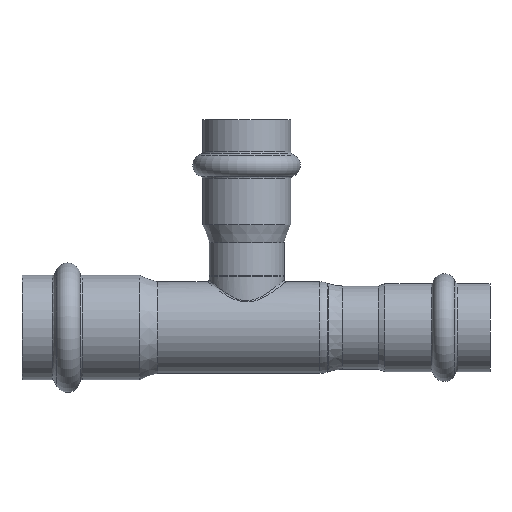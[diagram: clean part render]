
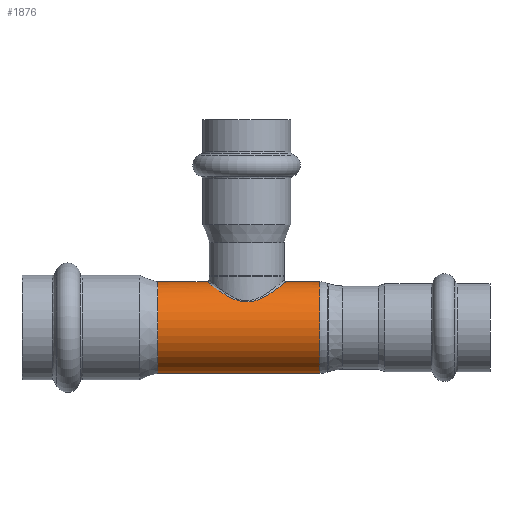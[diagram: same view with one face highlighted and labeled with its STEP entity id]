
A CAD part, front view. The second image highlights one B-rep face of the part: STEP entity #1876.
In plain terms, the highlighted cylindrical face has radius 11 mm (diameter 22 mm), a full revolution.
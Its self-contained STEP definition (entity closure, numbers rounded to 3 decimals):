
#1701=CARTESIAN_POINT('',(54.0,-9.087,6.199));
#1702=VERTEX_POINT('',#1701);
#1768=CARTESIAN_POINT('',(54.,-9.087,6.199));
#1769=CARTESIAN_POINT('',(54.,-9.087,6.199));
#1770=CARTESIAN_POINT('',(54.,-9.087,6.199));
#1771=CARTESIAN_POINT('',(54.,-9.087,6.199));
#1772=CARTESIAN_POINT('',(54.378,-9.087,6.199));
#1773=CARTESIAN_POINT('',(55.132,-9.043,6.264));
#1774=CARTESIAN_POINT('',(56.22,-8.856,6.529));
#1775=CARTESIAN_POINT('',(57.248,-8.559,6.917));
#1776=CARTESIAN_POINT('',(58.51,-8.044,7.524));
#1777=CARTESIAN_POINT('',(59.943,-7.176,8.387));
#1778=CARTESIAN_POINT('',(61.228,-5.973,9.278));
#1779=CARTESIAN_POINT('',(62.168,-4.705,9.97));
#1780=CARTESIAN_POINT('',(62.812,-3.488,10.461));
#1781=CARTESIAN_POINT('',(63.271,-2.148,10.819));
#1782=CARTESIAN_POINT('',(63.51,-0.725,11.008));
#1783=CARTESIAN_POINT('',(63.51,0.728,11.008));
#1784=CARTESIAN_POINT('',(63.27,2.151,10.819));
#1785=CARTESIAN_POINT('',(62.887,3.268,10.52));
#1786=CARTESIAN_POINT('',(62.487,4.101,10.214));
#1787=CARTESIAN_POINT('',(62.027,4.897,9.866));
#1788=CARTESIAN_POINT('',(61.357,5.798,9.373));
#1789=CARTESIAN_POINT('',(60.423,6.737,8.719));
#1790=CARTESIAN_POINT('',(59.362,7.538,8.032));
#1791=CARTESIAN_POINT('',(58.393,8.077,7.477));
#1792=CARTESIAN_POINT('',(57.558,8.434,7.065));
#1793=CARTESIAN_POINT('',(56.681,8.738,6.689));
#1794=CARTESIAN_POINT('',(55.511,9.009,6.316));
#1795=CARTESIAN_POINT('',(53.999,9.126,6.14));
#1796=CARTESIAN_POINT('',(52.491,9.009,6.315));
#1797=CARTESIAN_POINT('',(51.078,8.681,6.767));
#1798=CARTESIAN_POINT('',(49.8,8.185,7.366));
#1799=CARTESIAN_POINT('',(48.625,7.53,8.039));
#1800=CARTESIAN_POINT('',(47.748,6.865,8.608));
#1801=CARTESIAN_POINT('',(46.786,5.963,9.268));
#1802=CARTESIAN_POINT('',(46.035,5.028,9.818));
#1803=CARTESIAN_POINT('',(45.252,3.634,10.411));
#1804=CARTESIAN_POINT('',(44.756,2.308,10.798));
#1805=CARTESIAN_POINT('',(44.49,0.727,11.008));
#1806=CARTESIAN_POINT('',(44.49,-0.726,11.008));
#1807=CARTESIAN_POINT('',(44.689,-1.912,10.851));
#1808=CARTESIAN_POINT('',(44.959,-2.821,10.64));
#1809=CARTESIAN_POINT('',(45.295,-3.691,10.38));
#1810=CARTESIAN_POINT('',(45.838,-4.715,9.966));
#1811=CARTESIAN_POINT('',(46.575,-5.707,9.423));
#1812=CARTESIAN_POINT('',(47.34,-6.504,8.884));
#1813=CARTESIAN_POINT('',(48.102,-7.145,8.376));
#1814=CARTESIAN_POINT('',(48.926,-7.703,7.864));
#1815=CARTESIAN_POINT('',(50.103,-8.331,7.206));
#1816=CARTESIAN_POINT('',(51.418,-8.793,6.619));
#1817=CARTESIAN_POINT('',(52.868,-9.044,6.263));
#1818=CARTESIAN_POINT('',(53.622,-9.087,6.199));
#1819=CARTESIAN_POINT('',(54.,-9.087,6.199));
#1820=B_SPLINE_CURVE_WITH_KNOTS('',3,(#1768,#1769,#1770,#1771,#1772,#1773,#1774,#1775,#1776,#1777,#1778,#1779,#1780,#1781,#1782,#1783,#1784,#1785,#1786,#1787,#1788,#1789,#1790,#1791,#1792,#1793,#1794,#1795,#1796,#1797,#1798,#1799,#1800,#1801,#1802,#1803,#1804,#1805,#1806,#1807,#1808,#1809,#1810,#1811,#1812,#1813,#1814,#1815,#1816,#1817,#1818,#1819),.UNSPECIFIED.,.T.,.U.,(4,3,1,1,1,1,1,1,1,1,1,1,1,1,1,1,1,1,1,1,1,1,1,1,1,1,1,1,1,1,1,1,1,1,1,1,1,1,1,1,1,1,1,1,1,1,1,4),(-5.723,-5.723,-5.621,-5.518,-5.416,-5.314,-5.11,-4.905,-4.769,-4.633,-4.496,-4.36,-4.224,-4.088,-3.951,-3.883,-3.815,-3.679,-3.543,-3.406,-3.27,-3.202,-3.134,-2.998,-2.861,-2.725,-2.589,-2.453,-2.316,-2.18,-2.112,-1.908,-1.817,-1.635,-1.499,-1.363,-1.226,-1.158,-1.09,-0.954,-0.818,-0.715,-0.613,-0.511,-0.409,-0.204,-0.102,0.),.UNSPECIFIED.);
#1821=EDGE_CURVE('',#1702,#1702,#1820,.T.);
#1846=CARTESIAN_POINT('',(52.1,0.,0.0));
#1847=DIRECTION('',(1.0,0.,0.0));
#1848=DIRECTION('',(0.0,1.0,0.0));
#1849=AXIS2_PLACEMENT_3D('',#1846,#1847,#1848);
#1850=CYLINDRICAL_SURFACE('',#1849,11.);
#1851=CARTESIAN_POINT('',(32.592,11.0,0.0));
#1852=VERTEX_POINT('',#1851);
#1853=CARTESIAN_POINT('',(32.592,0.,0.0));
#1854=DIRECTION('',(1.0,0.0,0.0));
#1855=DIRECTION('',(0.0,1.0,0.0));
#1856=AXIS2_PLACEMENT_3D('',#1853,#1854,#1855);
#1857=CIRCLE('',#1856,11.);
#1858=EDGE_CURVE('',#1852,#1852,#1857,.T.);
#1859=ORIENTED_EDGE('',*,*,#1858,.T.);
#1860=EDGE_LOOP('',(#1859));
#1861=FACE_OUTER_BOUND('',#1860,.T.);
#1862=CARTESIAN_POINT('',(71.608,11.,0.0));
#1863=VERTEX_POINT('',#1862);
#1864=CARTESIAN_POINT('',(71.608,0.,0.0));
#1865=DIRECTION('',(1.0,0.0,0.0));
#1866=DIRECTION('',(0.0,1.0,0.0));
#1867=AXIS2_PLACEMENT_3D('',#1864,#1865,#1866);
#1868=CIRCLE('',#1867,11.0);
#1869=EDGE_CURVE('',#1863,#1863,#1868,.T.);
#1870=ORIENTED_EDGE('',*,*,#1869,.F.);
#1871=EDGE_LOOP('',(#1870));
#1872=FACE_BOUND('',#1871,.T.);
#1873=ORIENTED_EDGE('',*,*,#1821,.F.);
#1874=EDGE_LOOP('',(#1873));
#1875=FACE_BOUND('',#1874,.T.);
#1876=ADVANCED_FACE('',(#1861,#1872,#1875),#1850,.T.);
